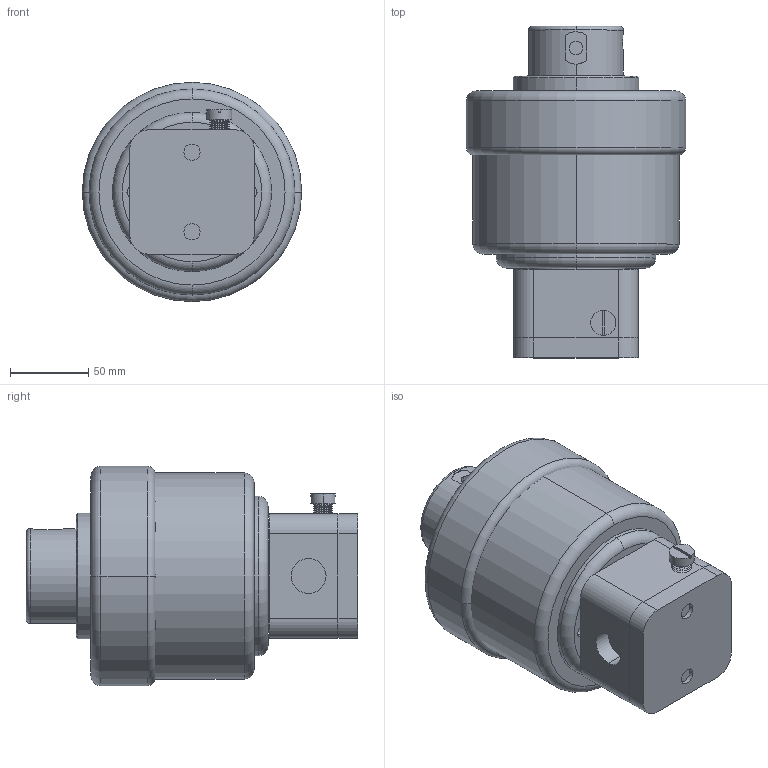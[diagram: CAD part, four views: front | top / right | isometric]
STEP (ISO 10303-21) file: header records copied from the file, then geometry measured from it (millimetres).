
FILE_DESCRIPTION (( 'STEP AP214' ), '1' );
FILE_NAME ('DBU030-I030.STEP', '2014-05-15T21:51:50', ( '' ), ( '' ), 'SwSTEP 2.0', 'SolidWorks 2012', '' );
FILE_SCHEMA (( 'AUTOMOTIVE_DESIGN' ));
Length unit declared in the file: inch
Products named in the file (1): DBU030-I030
Bounding box: 139.7 x 211.43 x 139.7 mm (x, y, z)
Volume: 2339395.3 mm3; surface area: 209897.4 mm2
Topology: 13 solids, 13 shells, 461 faces, 991 edges, 604 vertices
Faces by surface type: cone 188, cylinder 166, plane 97, torus 10
Entity records: 13232 total; most frequent: DIRECTION 2482, CARTESIAN_POINT 2187, ORIENTED_EDGE 1978, AXIS2_PLACEMENT_3D 1037, EDGE_CURVE 989, VERTEX_POINT 604, CIRCLE 575, EDGE_LOOP 511
